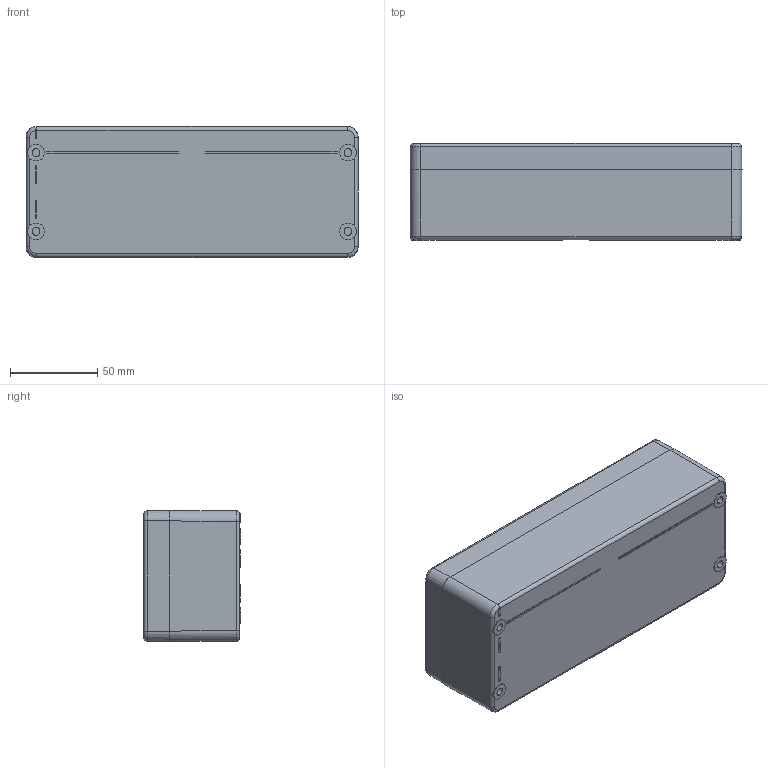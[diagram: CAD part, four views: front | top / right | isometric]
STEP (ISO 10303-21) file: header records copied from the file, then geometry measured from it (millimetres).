
FILE_DESCRIPTION((''),'2;1');
FILE_NAME('4194000000_ASM','2023-11-30T08:49:45',('silke.otte'),(''),'CREO PARAMETRIC BY PTC INC, 2022124','CREO PARAMETRIC BY PTC INC, 2022124','');
FILE_SCHEMA(('AUTOMOTIVE_DESIGN { 1 0 10303 214 1 1 1 1 }'));
Length unit declared in the file: millimetre
Products named in the file (15): 9331004000; EINPRESSMUTTER_M4; EINPRESSMUTTER_M4_AF12; EINPRESSMUTTER_M4_AF13; EINPRESSMUTTER_M4_AF14; EINPRESSMUTTER_M4_AF15; 9331004000_ASM; 9332004000; CP-DICHTUNG_35; 9614003400_ASM; 9262004000; 9261014000; 9258857000; 9258838000; 4194000000_ASM
Assembly tree (22 placements, depth 3):
  4194000000_ASM
    9331004000_ASM
      9331004000
      EINPRESSMUTTER_M4  x2
      EINPRESSMUTTER_M4_AF12
      EINPRESSMUTTER_M4_AF13
      EINPRESSMUTTER_M4_AF14
      EINPRESSMUTTER_M4_AF15
    9614003400_ASM
      9332004000
      CP-DICHTUNG_35
    9262004000  x4
    9261014000  x4
    9258857000  x2
    9258838000
Bounding box: 190 x 55.6 x 75 mm (x, y, z)
Volume: 234787.6 mm3; surface area: 130155.2 mm2
Topology: 20 solids, 30 shells, 723 faces, 5583 edges, 8620 vertices
Faces by surface type: plane 309, cone 184, cylinder 182, bspline 24, torus 24
Entity records: 42879 total; most frequent: CARTESIAN_POINT 8999, DIRECTION 5538, VECTOR 2734, LINE 2734, ORIENTED_EDGE 2430, TRIMMED_CURVE 2229, PRESENTATION_STYLE_ASSIGNMENT 1597, STYLED_ITEM 1576
